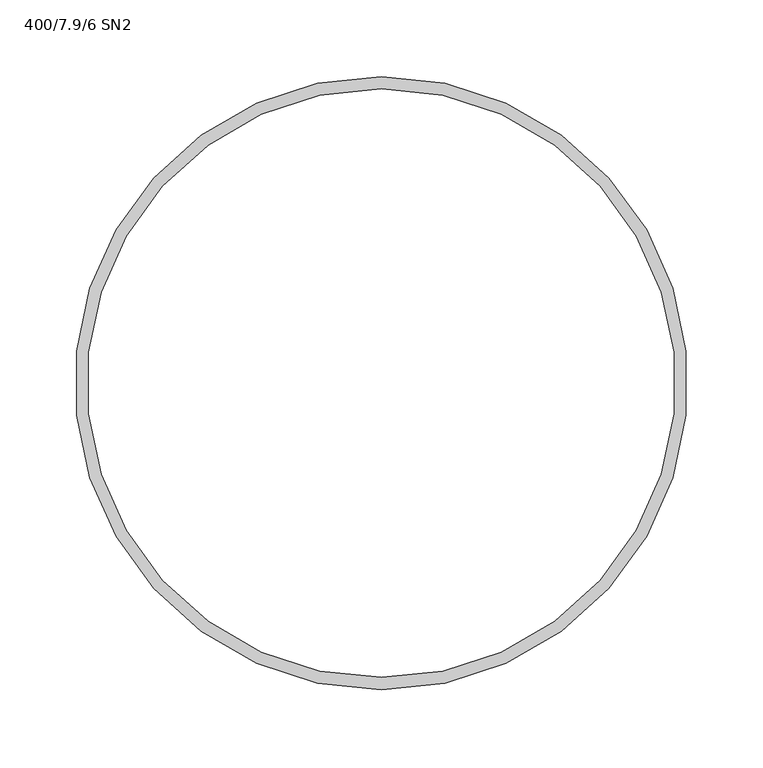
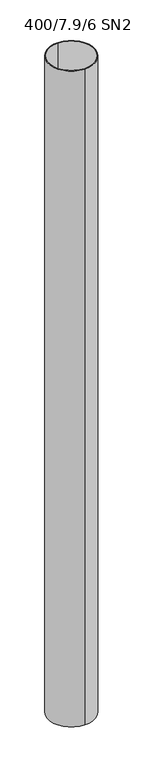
"""IFC4 building model written with IfcOpenShell, lengths in millimetres: valve geometry, Pipelife - Studnia PRO - PVC Rura kanal. trzonowa 400 : 400/7.9/6 SN2."""

from ifc_helpers import new_model, si_unit, point, origin, origin_with_axes, origin_2d, place, context, project, spatial, circle_curve, trimmed, segment, composite_curve, outline, extrude, source, transform, mapped, element, save


def valve_400_7_9_6_sn2_7e950949(model_context):
    return source(origin(), model_context, "Body", "SweptSolid", [
        extrude(outline(composite_curve([segment(trimmed(circle_curve(origin_2d(), 200.0), [point((0.0, 200.0))], [point((0.0, -200.0))], False, "CARTESIAN"), True, "CONTINUOUS"), segment(trimmed(circle_curve(origin_2d(), 200.0), [point((0.0, -200.0))], [point((0.0, 200.0))], False, "CARTESIAN"), True, "CONTINUOUS")], self_intersect=False), holes=[composite_curve([segment(trimmed(circle_curve(origin_2d(), 192.0), [point((0.0, 192.0))], [point((0.0, -192.0))], True, "CARTESIAN"), True, "CONTINUOUS"), segment(trimmed(circle_curve(origin_2d(), 192.0), [point((0.0, -192.0))], [point((0.0, 192.0))], True, "CARTESIAN"), True, "CONTINUOUS")], self_intersect=False)]), origin_with_axes(), (0.0, 0.0, 1.0), 6000.0),
    ])


if __name__ == "__main__":
    model = new_model("IFC4")
    model_context = context("Model", 3, world=origin())
    ifc_project = project(units=[si_unit("LENGTHUNIT", "METRE", prefix="MILLI")], contexts=[model_context])
    site = spatial("IfcSite", under=ifc_project)
    building = spatial("IfcBuilding", under=site)
    placement = place(None, origin())
    valve_400_7_9_6_sn2_shape = valve_400_7_9_6_sn2_7e950949(model_context)
    element("IfcValve", 1, ObjectType="Pipelife - Studnia PRO - PVC Rura kanal. trzonowa 400 : 400/7.9/6 SN2", at=placement, inside=building, context=model_context, shape_type="MappedRepresentation", body=[
        mapped(valve_400_7_9_6_sn2_shape, transform((0.0, 0.0, 0.0), x_axis=(1.0, 0.0, 0.0), y_axis=(0.0, 1.0, 0.0), z_axis=(0.0, 0.0, 1.0))),
    ])
    save(model, "model.ifc")
